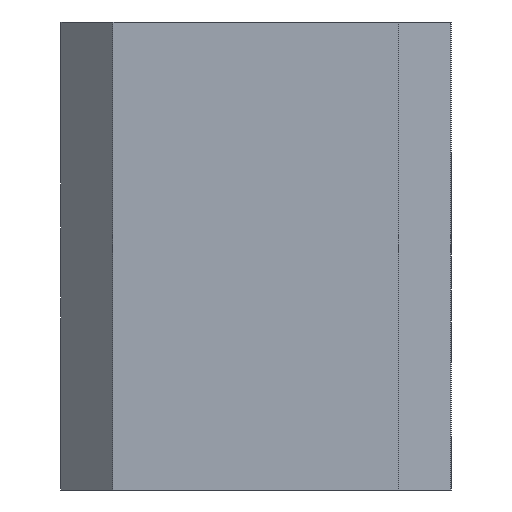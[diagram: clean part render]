
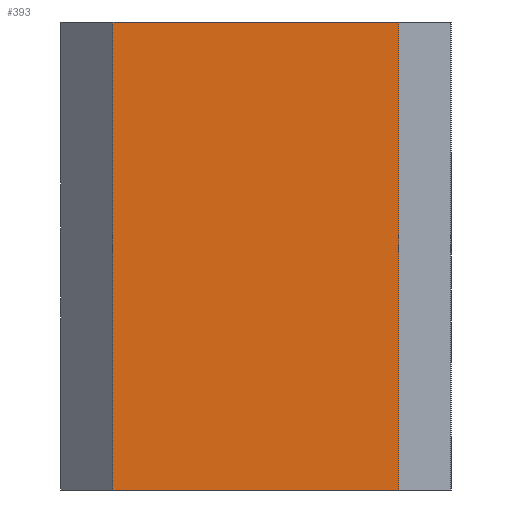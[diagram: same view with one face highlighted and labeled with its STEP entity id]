
A CAD part, left-side view. The second image highlights one B-rep face of the part: STEP entity #393.
In plain terms, the highlighted planar face has unit normal (-1, 0, 0).
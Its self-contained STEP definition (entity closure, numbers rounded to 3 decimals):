
#30 = ORIENTED_EDGE ( 'NONE', *, *, #731, .T. ) ;
#36 = DIRECTION ( 'NONE',  ( 0., 0., 1. ) ) ;
#45 = ORIENTED_EDGE ( 'NONE', *, *, #317, .T. ) ;
#56 = ORIENTED_EDGE ( 'NONE', *, *, #940, .F. ) ;
#61 = LINE ( 'NONE', #259, #691 ) ;
#167 = CARTESIAN_POINT ( 'NONE',  ( -30., 5.5, 9. ) ) ;
#192 = CARTESIAN_POINT ( 'NONE',  ( -30., -5.5, 9. ) ) ;
#225 = CARTESIAN_POINT ( 'NONE',  ( -30., -5.5, -9. ) ) ;
#235 = DIRECTION ( 'NONE',  ( 1., 0., 0. ) ) ;
#259 = CARTESIAN_POINT ( 'NONE',  ( -30., 5.5, 9. ) ) ;
#289 = LINE ( 'NONE', #917, #702 ) ;
#311 = ORIENTED_EDGE ( 'NONE', *, *, #399, .T. ) ;
#315 = LINE ( 'NONE', #554, #377 ) ;
#317 = EDGE_CURVE ( 'NONE', #927, #463, #315, .T. ) ;
#320 = DIRECTION ( 'NONE',  ( 0., 0., -1. ) ) ;
#343 = CARTESIAN_POINT ( 'NONE',  ( -30., 7.5, 9. ) ) ;
#377 = VECTOR ( 'NONE', #408, 1000. ) ;
#393 = ADVANCED_FACE ( 'NONE', ( #454 ), #608, .F. ) ;
#399 = EDGE_CURVE ( 'NONE', #803, #927, #61, .T. ) ;
#408 = DIRECTION ( 'NONE',  ( 0., -1., 0. ) ) ;
#424 = DIRECTION ( 'NONE',  ( 0., 1., 0. ) ) ;
#432 = EDGE_LOOP ( 'NONE', ( #56, #311, #45, #30 ) ) ;
#454 = FACE_OUTER_BOUND ( 'NONE', #432, .T. ) ;
#463 = VERTEX_POINT ( 'NONE', #225 ) ;
#554 = CARTESIAN_POINT ( 'NONE',  ( -30., 7.5, -9. ) ) ;
#608 = PLANE ( 'NONE',  #849 ) ;
#623 = CARTESIAN_POINT ( 'NONE',  ( -30., 7.5, 9. ) ) ;
#684 = VERTEX_POINT ( 'NONE', #192 ) ;
#691 = VECTOR ( 'NONE', #320, 1000. ) ;
#702 = VECTOR ( 'NONE', #36, 1000. ) ;
#715 = VECTOR ( 'NONE', #758, 1000. ) ;
#725 = CARTESIAN_POINT ( 'NONE',  ( -30., 5.5, -9. ) ) ;
#731 = EDGE_CURVE ( 'NONE', #463, #684, #289, .T. ) ;
#758 = DIRECTION ( 'NONE',  ( 0., -1., 0. ) ) ;
#803 = VERTEX_POINT ( 'NONE', #167 ) ;
#849 = AXIS2_PLACEMENT_3D ( 'NONE', #623, #235, #424 ) ;
#863 = LINE ( 'NONE', #343, #715 ) ;
#917 = CARTESIAN_POINT ( 'NONE',  ( -30., -5.5, 9. ) ) ;
#927 = VERTEX_POINT ( 'NONE', #725 ) ;
#940 = EDGE_CURVE ( 'NONE', #803, #684, #863, .T. ) ;
